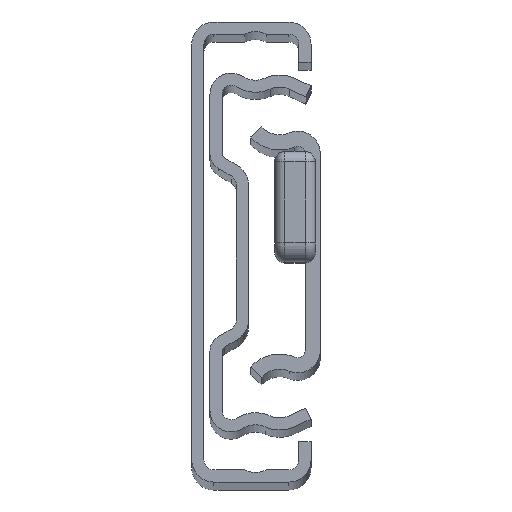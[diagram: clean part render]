
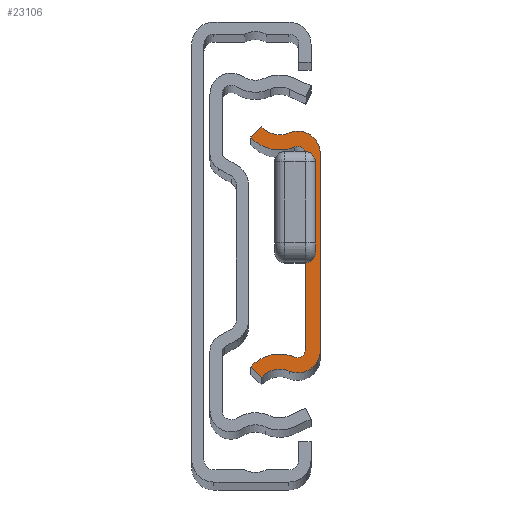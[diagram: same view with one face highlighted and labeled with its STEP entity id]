
A CAD part, top view. The second image highlights one B-rep face of the part: STEP entity #23106.
In plain terms, the highlighted planar face has unit normal (0, 0, 1).
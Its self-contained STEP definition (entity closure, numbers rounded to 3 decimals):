
#720 = ORIENTED_EDGE ( 'NONE', *, *, #4568, .T. ) ;
#1818 = CIRCLE ( 'NONE', #12769, 3.88 ) ;
#1896 = CARTESIAN_POINT ( 'NONE',  ( -3.45, 11.377, 0. ) ) ;
#1954 = ORIENTED_EDGE ( 'NONE', *, *, #16837, .T. ) ;
#2369 = EDGE_CURVE ( 'NONE', #13591, #16076, #3023, .T. ) ;
#2796 = CARTESIAN_POINT ( 'NONE',  ( -2.333, -12.378, 0. ) ) ;
#2953 = CIRCLE ( 'NONE', #26959, 2.226 ) ;
#2982 = CIRCLE ( 'NONE', #19509, 2.226 ) ;
#3023 = LINE ( 'NONE', #14158, #27233 ) ;
#3118 = CARTESIAN_POINT ( 'NONE',  ( -3.45, 11.377, 0. ) ) ;
#3174 = DIRECTION ( 'NONE',  ( 0., -1., 0. ) ) ;
#3927 = LINE ( 'NONE', #16605, #17588 ) ;
#4106 = VECTOR ( 'NONE', #27934, 1000. ) ;
#4112 = AXIS2_PLACEMENT_3D ( 'NONE', #26022, #14905, #10883 ) ;
#4568 = EDGE_CURVE ( 'NONE', #25587, #13591, #1818, .T. ) ;
#4821 = ORIENTED_EDGE ( 'NONE', *, *, #24300, .T. ) ;
#4977 = VERTEX_POINT ( 'NONE', #12645 ) ;
#5566 = ORIENTED_EDGE ( 'NONE', *, *, #11284, .T. ) ;
#5666 = DIRECTION ( 'NONE',  ( 0., 0., -1. ) ) ;
#5989 = CARTESIAN_POINT ( 'NONE',  ( -3.45, -11.377, 0. ) ) ;
#6960 = EDGE_CURVE ( 'NONE', #9028, #4977, #3927, .T. ) ;
#7514 = CARTESIAN_POINT ( 'NONE',  ( 3.45, 9.725, 0. ) ) ;
#7753 = DIRECTION ( 'NONE',  ( 0., 0., 1. ) ) ;
#7957 = DIRECTION ( 'NONE',  ( -1., 0., 0. ) ) ;
#8976 = ORIENTED_EDGE ( 'NONE', *, *, #16557, .T. ) ;
#9028 = VERTEX_POINT ( 'NONE', #15833 ) ;
#9307 = DIRECTION ( 'NONE',  ( 0., 0., -1. ) ) ;
#9315 = CARTESIAN_POINT ( 'NONE',  ( 0.942, -10.394, 0. ) ) ;
#9946 = CIRCLE ( 'NONE', #22783, 0.726 ) ;
#10241 = DIRECTION ( 'NONE',  ( 1., 0., 0. ) ) ;
#10850 = CARTESIAN_POINT ( 'NONE',  ( -2.333, 12.378, 0. ) ) ;
#10883 = DIRECTION ( 'NONE',  ( -1., 0., 0. ) ) ;
#10946 = EDGE_CURVE ( 'NONE', #28631, #24250, #12343, .T. ) ;
#11284 = EDGE_CURVE ( 'NONE', #4977, #25587, #14769, .T. ) ;
#11647 = VECTOR ( 'NONE', #22364, 1000. ) ;
#11762 = VERTEX_POINT ( 'NONE', #7514 ) ;
#12107 = ORIENTED_EDGE ( 'NONE', *, *, #25771, .T. ) ;
#12229 = CARTESIAN_POINT ( 'NONE',  ( -0.564, -13.97, 0. ) ) ;
#12230 = ORIENTED_EDGE ( 'NONE', *, *, #28193, .T. ) ;
#12343 = CIRCLE ( 'NONE', #4112, 2.38 ) ;
#12645 = CARTESIAN_POINT ( 'NONE',  ( 1.95, -9.725, 0. ) ) ;
#12769 = AXIS2_PLACEMENT_3D ( 'NONE', #12229, #21366, #10241 ) ;
#12991 = PLANE ( 'NONE',  #15796 ) ;
#13462 = DIRECTION ( 'NONE',  ( -1., 0., 0. ) ) ;
#13511 = CARTESIAN_POINT ( 'NONE',  ( 0.942, 10.394, 0. ) ) ;
#13591 = VERTEX_POINT ( 'NONE', #5989 ) ;
#14158 = CARTESIAN_POINT ( 'NONE',  ( -3.45, -11.377, 0. ) ) ;
#14516 = EDGE_CURVE ( 'NONE', #24355, #15215, #21224, .T. ) ;
#14769 = CIRCLE ( 'NONE', #21726, 0.726 ) ;
#14905 = DIRECTION ( 'NONE',  ( 0., 0., -1. ) ) ;
#15074 = ORIENTED_EDGE ( 'NONE', *, *, #6960, .T. ) ;
#15088 = DIRECTION ( 'NONE',  ( 1., 0., 0. ) ) ;
#15215 = VERTEX_POINT ( 'NONE', #13511 ) ;
#15334 = CARTESIAN_POINT ( 'NONE',  ( 3.45, -9.725, 0. ) ) ;
#15692 = ORIENTED_EDGE ( 'NONE', *, *, #21757, .T. ) ;
#15796 = AXIS2_PLACEMENT_3D ( 'NONE', #28664, #24358, #19610 ) ;
#15833 = CARTESIAN_POINT ( 'NONE',  ( 1.95, 9.725, 0. ) ) ;
#16076 = VERTEX_POINT ( 'NONE', #2796 ) ;
#16557 = EDGE_CURVE ( 'NONE', #17038, #23812, #2953, .T. ) ;
#16605 = CARTESIAN_POINT ( 'NONE',  ( 1.95, -9.725, 0. ) ) ;
#16740 = LINE ( 'NONE', #3118, #4106 ) ;
#16837 = EDGE_CURVE ( 'NONE', #15215, #9028, #9946, .T. ) ;
#17038 = VERTEX_POINT ( 'NONE', #28024 ) ;
#17588 = VECTOR ( 'NONE', #3174, 1000. ) ;
#17840 = DIRECTION ( 'NONE',  ( 0., 0., 1. ) ) ;
#18286 = CARTESIAN_POINT ( 'NONE',  ( 1.224, 9.725, 0. ) ) ;
#19345 = LINE ( 'NONE', #15334, #11647 ) ;
#19509 = AXIS2_PLACEMENT_3D ( 'NONE', #22435, #17840, #13462 ) ;
#19570 = CARTESIAN_POINT ( 'NONE',  ( 1.224, -9.725, 0. ) ) ;
#19610 = DIRECTION ( 'NONE',  ( 1., 0., 0. ) ) ;
#19809 = CARTESIAN_POINT ( 'NONE',  ( 0.36, 11.777, 0. ) ) ;
#20326 = DIRECTION ( 'NONE',  ( -1., 0., 0. ) ) ;
#20762 = AXIS2_PLACEMENT_3D ( 'NONE', #26881, #9307, #24606 ) ;
#21224 = CIRCLE ( 'NONE', #28232, 3.88 ) ;
#21366 = DIRECTION ( 'NONE',  ( 0., 0., 1. ) ) ;
#21416 = DIRECTION ( 'NONE',  ( 0., 0., 1. ) ) ;
#21504 = CARTESIAN_POINT ( 'NONE',  ( 1.224, -9.725, 0. ) ) ;
#21726 = AXIS2_PLACEMENT_3D ( 'NONE', #21504, #5666, #25999 ) ;
#21757 = EDGE_CURVE ( 'NONE', #11762, #28631, #2982, .T. ) ;
#22364 = DIRECTION ( 'NONE',  ( 0., 1., 0. ) ) ;
#22435 = CARTESIAN_POINT ( 'NONE',  ( 1.224, 9.725, 0. ) ) ;
#22557 = FACE_OUTER_BOUND ( 'NONE', #27626, .T. ) ;
#22783 = AXIS2_PLACEMENT_3D ( 'NONE', #18286, #29095, #20326 ) ;
#23106 = ADVANCED_FACE ( 'Face2', ( #22557 ), #12991, .T. ) ;
#23812 = VERTEX_POINT ( 'NONE', #28727 ) ;
#24250 = VERTEX_POINT ( 'NONE', #10850 ) ;
#24300 = EDGE_CURVE ( 'NONE', #23812, #11762, #19345, .T. ) ;
#24355 = VERTEX_POINT ( 'NONE', #1896 ) ;
#24358 = DIRECTION ( 'NONE',  ( 0., 0., 1. ) ) ;
#24606 = DIRECTION ( 'NONE',  ( 1., 0., 0. ) ) ;
#25587 = VERTEX_POINT ( 'NONE', #9315 ) ;
#25771 = EDGE_CURVE ( 'NONE', #24250, #24355, #16740, .T. ) ;
#25973 = ORIENTED_EDGE ( 'NONE', *, *, #14516, .T. ) ;
#25999 = DIRECTION ( 'NONE',  ( 1., 0., 0. ) ) ;
#26022 = CARTESIAN_POINT ( 'NONE',  ( -0.564, 13.97, 0. ) ) ;
#26881 = CARTESIAN_POINT ( 'NONE',  ( -0.564, -13.97, 0. ) ) ;
#26959 = AXIS2_PLACEMENT_3D ( 'NONE', #19570, #7753, #15088 ) ;
#27219 = DIRECTION ( 'NONE',  ( 0.745, -0.667, 0. ) ) ;
#27233 = VECTOR ( 'NONE', #27219, 1000. ) ;
#27240 = ORIENTED_EDGE ( 'NONE', *, *, #2369, .T. ) ;
#27626 = EDGE_LOOP ( 'NONE', ( #12230, #8976, #4821, #15692, #29065, #12107, #25973, #1954, #15074, #5566, #720, #27240 ) ) ;
#27866 = CIRCLE ( 'NONE', #20762, 2.38 ) ;
#27934 = DIRECTION ( 'NONE',  ( -0.745, -0.667, 0. ) ) ;
#28024 = CARTESIAN_POINT ( 'NONE',  ( 0.36, -11.777, 0. ) ) ;
#28140 = CARTESIAN_POINT ( 'NONE',  ( -0.564, 13.97, 0. ) ) ;
#28193 = EDGE_CURVE ( 'NONE', #16076, #17038, #27866, .T. ) ;
#28232 = AXIS2_PLACEMENT_3D ( 'NONE', #28140, #21416, #7957 ) ;
#28631 = VERTEX_POINT ( 'NONE', #19809 ) ;
#28664 = CARTESIAN_POINT ( 'NONE',  ( -0.564, -13.97, 0. ) ) ;
#28727 = CARTESIAN_POINT ( 'NONE',  ( 3.45, -9.725, 0. ) ) ;
#29065 = ORIENTED_EDGE ( 'NONE', *, *, #10946, .T. ) ;
#29095 = DIRECTION ( 'NONE',  ( 0., 0., -1. ) ) ;
